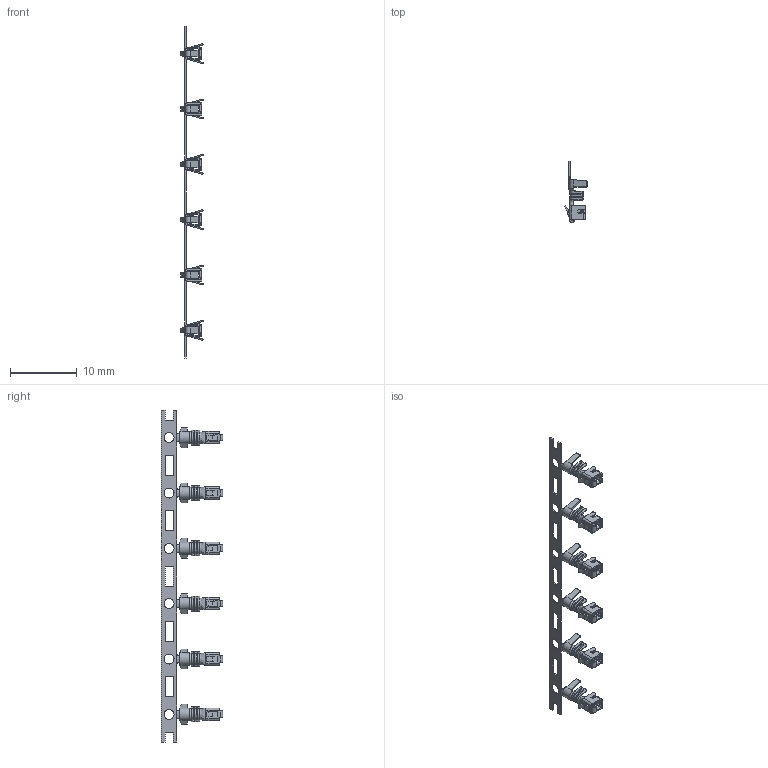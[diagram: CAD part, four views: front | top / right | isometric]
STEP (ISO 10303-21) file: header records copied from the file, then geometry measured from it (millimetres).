
FILE_DESCRIPTION(/* description */ (''),/* implementation_level */ '2;1');
FILE_NAME(/* name */ 'HC-XHB-T-B.stp',/* time_stamp */ '2026-10-17T17:31:24+08:00',/* author */ (''),/* organization */ (''),/* preprocessor_version */ 'ST-DEVELOPER v16',/* originating_system */ 'SIEMENS PLM Software NX 10.0',/* authorisation */ '');
FILE_SCHEMA (('AUTOMOTIVE_DESIGN { 1 0 10303 214 3 1 1 1 }'));
Products named in the file (1): HC-XHB-T-B
Bounding box: 3.39 x 9.19 x 49.8 mm (x, y, z)
Volume: 57.3 mm3; surface area: 692.1 mm2
Topology: 1 solids, 1 shells, 940 faces, 2892 edges, 1936 vertices
Faces by surface type: plane 496, cylinder 372, bspline 72
Entity records: 46437 total; most frequent: CARTESIAN_POINT 21756, ORIENTED_EDGE 5784, DIRECTION 4419, EDGE_CURVE 2892, VERTEX_POINT 1936, LINE 1577, VECTOR 1577, AXIS2_PLACEMENT_3D 1421
